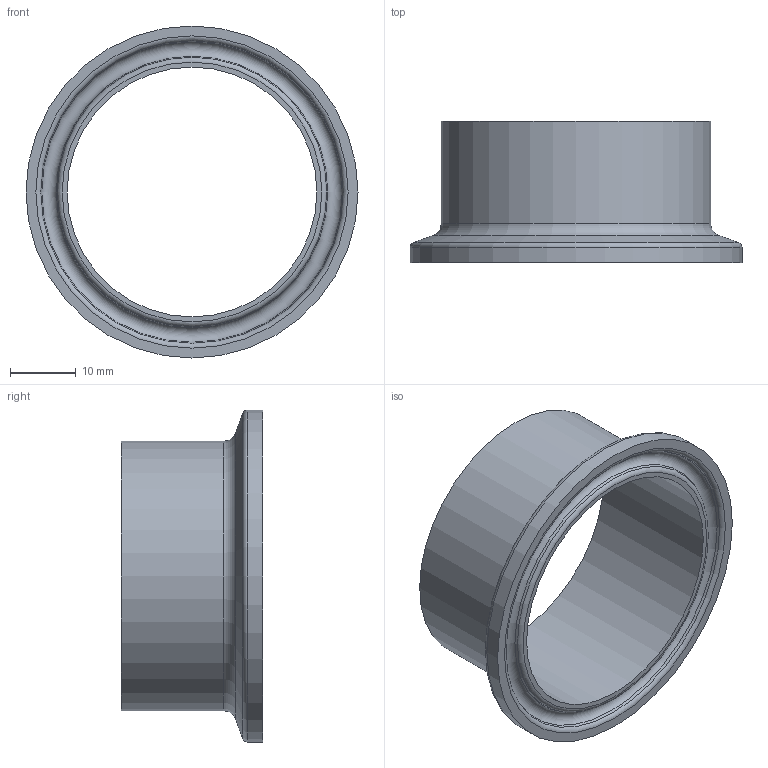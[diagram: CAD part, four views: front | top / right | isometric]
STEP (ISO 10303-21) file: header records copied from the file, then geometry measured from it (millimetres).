
FILE_DESCRIPTION(('Ferrule_41x1,5_L21,5_FL50,5_V01'),'2;1');
FILE_NAME('Ferrule_41x1,5_L21,5_FL50,5_V01.stp','2013-11-03T13:12:26',('DOCKWEILER AG'),('DOCKWEILER AG'),'Autodesk Inventor 2012','Autodesk Inventor 2012','');
FILE_SCHEMA(('CONFIG_CONTROL_DESIGN'));
Length unit declared in the file: millimetre
Products named in the file (1): N0003_003_001
Bounding box: 50.5 x 21.5 x 50.5 mm (x, y, z)
Volume: 6076.1 mm3; surface area: 7117.3 mm2
Topology: 1 solids, 1 shells, 14 faces, 25 edges, 14 vertices
Faces by surface type: torus 5, plane 3, cylinder 3, cone 3
Full cylindrical faces by diameter (mm): 38 x1, 41 x1, 50.5 x1
Entity records: 314 total; most frequent: DIRECTION 58, CARTESIAN_POINT 43, AXIS2_PLACEMENT_3D 29, ORIENTED_EDGE 28, EDGE_LOOP 28, VERTEX_POINT 14, CIRCLE 14, EDGE_CURVE 14
